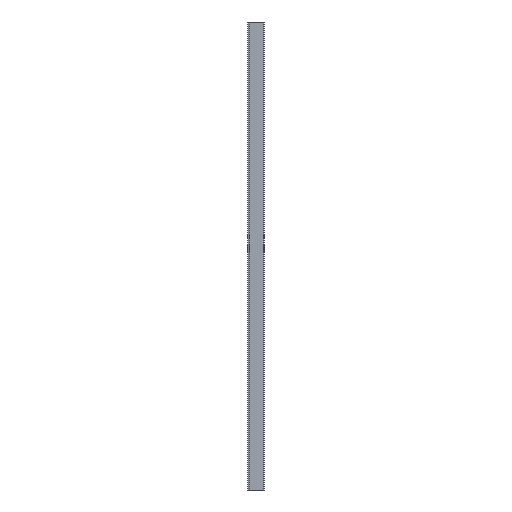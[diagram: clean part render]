
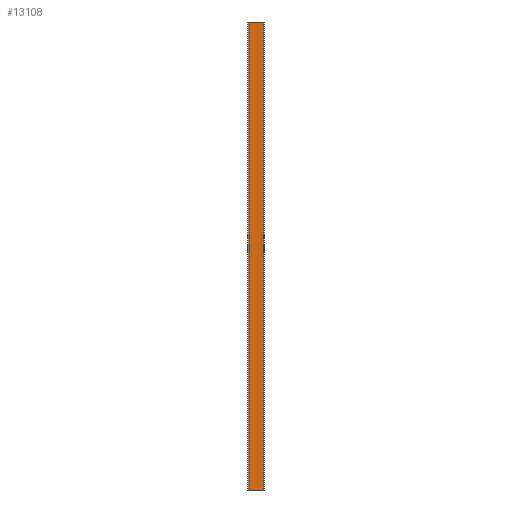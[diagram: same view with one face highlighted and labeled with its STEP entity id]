
A CAD part, left-side view. The second image highlights one B-rep face of the part: STEP entity #13108.
In plain terms, the highlighted planar face has unit normal (-1, 0, 0).
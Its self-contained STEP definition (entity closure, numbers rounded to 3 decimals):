
#100 = LINE ( 'NONE', #6773, #10122 ) ;
#309 = VECTOR ( 'NONE', #5979, 1000. ) ;
#1206 = CARTESIAN_POINT ( 'NONE',  ( -27., -68.8, 1000. ) ) ;
#1391 = EDGE_CURVE ( 'NONE', #1860, #7393, #2410, .T. ) ;
#1527 = VERTEX_POINT ( 'NONE', #5319 ) ;
#1799 = EDGE_CURVE ( 'NONE', #12229, #1860, #100, .T. ) ;
#1857 = PLANE ( 'NONE',  #9252 ) ;
#1860 = VERTEX_POINT ( 'NONE', #8898 ) ;
#2345 = ORIENTED_EDGE ( 'NONE', *, *, #10008, .T. ) ;
#2370 = ORIENTED_EDGE ( 'NONE', *, *, #5765, .T. ) ;
#2410 = LINE ( 'NONE', #10288, #12763 ) ;
#2994 = FACE_OUTER_BOUND ( 'NONE', #11580, .T. ) ;
#3608 = DIRECTION ( 'NONE',  ( 0., 1., 0. ) ) ;
#3947 = DIRECTION ( 'NONE',  ( -1., 0., 0. ) ) ;
#5319 = CARTESIAN_POINT ( 'NONE',  ( -27., -5., 1000. ) ) ;
#5765 = EDGE_CURVE ( 'NONE', #1527, #7393, #6695, .T. ) ;
#5979 = DIRECTION ( 'NONE',  ( 0., 0., -1. ) ) ;
#6695 = LINE ( 'NONE', #9058, #309 ) ;
#6743 = VECTOR ( 'NONE', #3608, 1000. ) ;
#6773 = CARTESIAN_POINT ( 'NONE',  ( -27., -68.8, 1000. ) ) ;
#7192 = DIRECTION ( 'NONE',  ( 0., 0., 1. ) ) ;
#7393 = VERTEX_POINT ( 'NONE', #13429 ) ;
#7719 = ORIENTED_EDGE ( 'NONE', *, *, #1799, .F. ) ;
#8308 = ORIENTED_EDGE ( 'NONE', *, *, #1391, .F. ) ;
#8898 = CARTESIAN_POINT ( 'NONE',  ( -27., -68.8, -1000. ) ) ;
#9058 = CARTESIAN_POINT ( 'NONE',  ( -27., -5., 1000. ) ) ;
#9252 = AXIS2_PLACEMENT_3D ( 'NONE', #13390, #3947, #7192 ) ;
#10008 = EDGE_CURVE ( 'NONE', #12229, #1527, #13485, .T. ) ;
#10122 = VECTOR ( 'NONE', #11982, 1000. ) ;
#10288 = CARTESIAN_POINT ( 'NONE',  ( -27., 0., -1000. ) ) ;
#11580 = EDGE_LOOP ( 'NONE', ( #8308, #7719, #2345, #2370 ) ) ;
#11827 = CARTESIAN_POINT ( 'NONE',  ( -27., 0., 1000. ) ) ;
#11982 = DIRECTION ( 'NONE',  ( 0., 0., -1. ) ) ;
#12229 = VERTEX_POINT ( 'NONE', #1206 ) ;
#12763 = VECTOR ( 'NONE', #13527, 1000. ) ;
#13108 = ADVANCED_FACE ( 'NONE', ( #2994 ), #1857, .T. ) ;
#13390 = CARTESIAN_POINT ( 'NONE',  ( -27., 0., 1000. ) ) ;
#13429 = CARTESIAN_POINT ( 'NONE',  ( -27., -5., -1000. ) ) ;
#13485 = LINE ( 'NONE', #11827, #6743 ) ;
#13527 = DIRECTION ( 'NONE',  ( 0., 1., 0. ) ) ;
